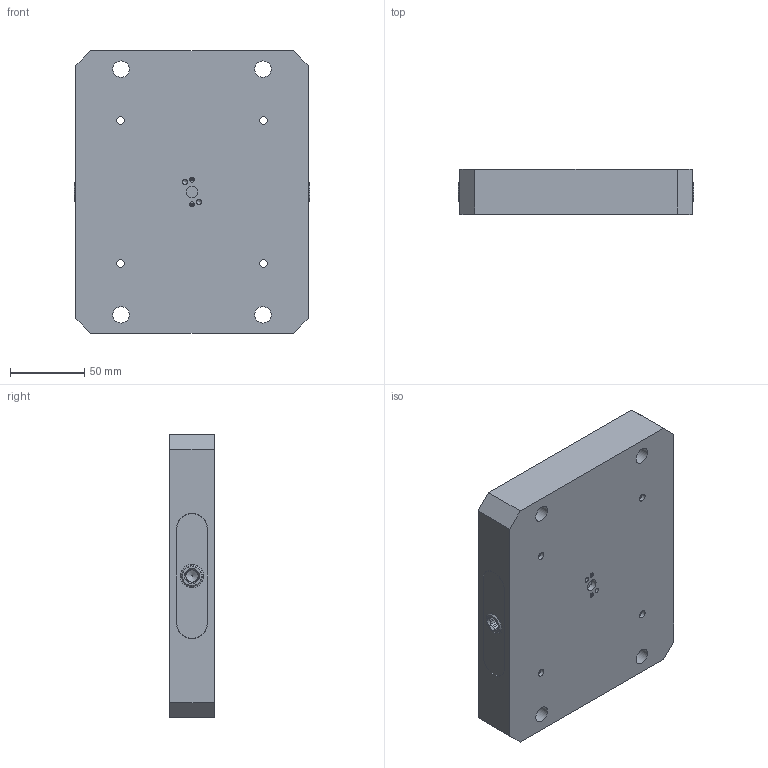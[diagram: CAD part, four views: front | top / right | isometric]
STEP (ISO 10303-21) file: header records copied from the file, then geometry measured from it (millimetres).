
FILE_DESCRIPTION (( 'STEP AP214' ), '1' );
FILE_NAME ('RL96S-68_WEBSITE.STEP', '2025-08-11T11:36:40', ( '' ), ( '' ), 'SwSTEP 2.0', 'SolidWorks 2025', '' );
FILE_SCHEMA (( 'AUTOMOTIVE_DESIGN' ));
Length unit declared in the file: millimetre
Products named in the file (10): 9452K183-Base-O-Ring_WEBSITE; D_RL96-ASSY_WEBSITE; D_RL96-2L_WEBSITE; D_HW27X20.DB_WEBSITE; D_RL96-168S_WEBSITE; 9452K121-Truck-O-Ring_WEBSITE; D_SB54_WEBSITE_FINISHED PART; RL96S-68_WEBSITE; D_RL96-3_WEBSITE; D_RL96-2R_WEBSITE
Assembly tree (17 placements, depth 3):
  RL96S-68_WEBSITE
    D_RL96-168S_WEBSITE
    D_RL96-ASSY_WEBSITE
      D_RL96-2L_WEBSITE
      D_RL96-2R_WEBSITE
      D_RL96-3_WEBSITE
      D_HW27X20.DB_WEBSITE  x4
      D_SB54_WEBSITE_FINISHED PART  x2
    9452K183-Base-O-Ring_WEBSITE  x4
    9452K121-Truck-O-Ring_WEBSITE  x2
Bounding box: 158 x 30 x 190 mm (x, y, z)
Volume: 794983.5 mm3; surface area: 144956.7 mm2
Topology: 18 solids, 18 shells, 294 faces, 651 edges, 409 vertices
Faces by surface type: plane 173, cylinder 93, cone 16, torus 10, bspline 2
Full cylindrical faces by diameter (mm): 0.127 x2, 2.5 x2, 3.3 x4, 4 x2, 4.7 x2, 5 x2, 5.182 x6, 8.026 x1, 8.204 x2, 9 x2, 9.525 x2, 10.795 x1, 11 x4, 11.938 x4, 12.573 x4, 14 x2, 15.748 x2, 18 x4, 19.05 x2, 19.101 x4, 20 x1, 20.015 x4, 20.035 x4, 26.982 x4, 26.993 x4, 27.051 x4
Entity records: 8840 total; most frequent: CARTESIAN_POINT 3197, DIRECTION 1138, ORIENTED_EDGE 904, AXIS2_PLACEMENT_3D 463, EDGE_CURVE 452, EDGE_LOOP 388, VERTEX_POINT 328, FACE_OUTER_BOUND 309
